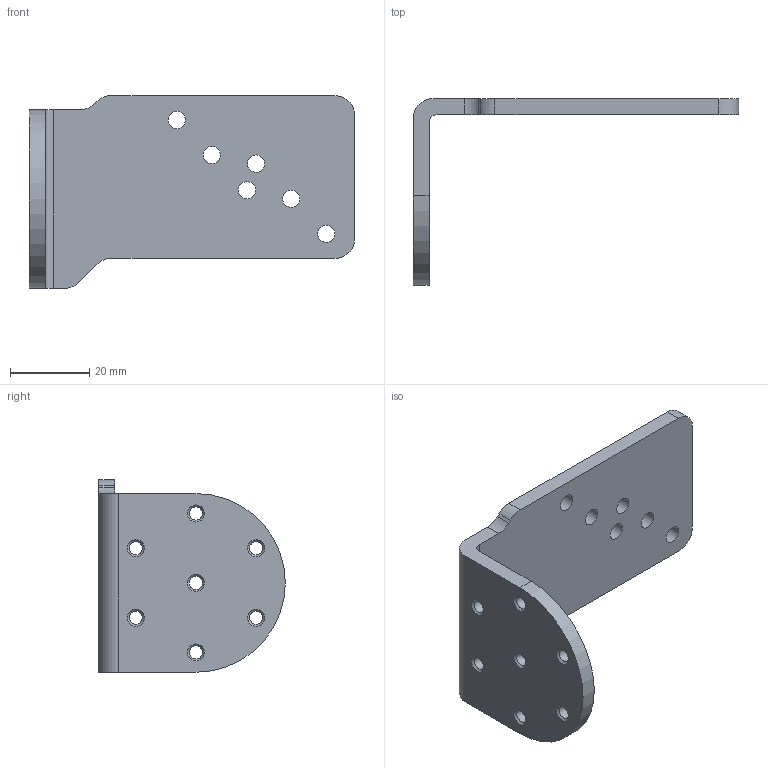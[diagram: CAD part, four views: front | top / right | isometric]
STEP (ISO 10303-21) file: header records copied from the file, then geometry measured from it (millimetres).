
FILE_DESCRIPTION(/* description */ (''),/* implementation_level */ '2;1');
FILE_NAME(/* name */ 'MP031628_01.stp',/* time_stamp */ '2020-07-07T15:23:11+02:00',/* author */ (''),/* organization */ (''),/* preprocessor_version */ 'ST-DEVELOPER v16.7',/* originating_system */ 'SIEMENS PLM Software NX 12.0',/* authorisation */ '');
FILE_SCHEMA (('AUTOMOTIVE_DESIGN { 1 0 10303 214 3 1 1 1 }'));
Length unit declared in the file: millimetre
Products named in the file (1): MP031628_01_1-BRACKET M320 BODY SIDE_ ADJUSTABLE VERSION.
Bounding box: 82 x 47 x 48.5 mm (x, y, z)
Volume: 19669.5 mm3; surface area: 11652.3 mm2
Topology: 1 solids, 1 shells, 44 faces, 136 edges, 94 vertices
Faces by surface type: cylinder 22, plane 12, cone 10
Full cylindrical faces by diameter (mm): 3.3 x7, 4.35 x6
Entity records: 1335 total; most frequent: DIRECTION 237, CARTESIAN_POINT 212, ORIENTED_EDGE 186, AXIS2_PLACEMENT_3D 99, EDGE_LOOP 93, EDGE_CURVE 93, FACE_BOUND 76, VERTEX_POINT 74
